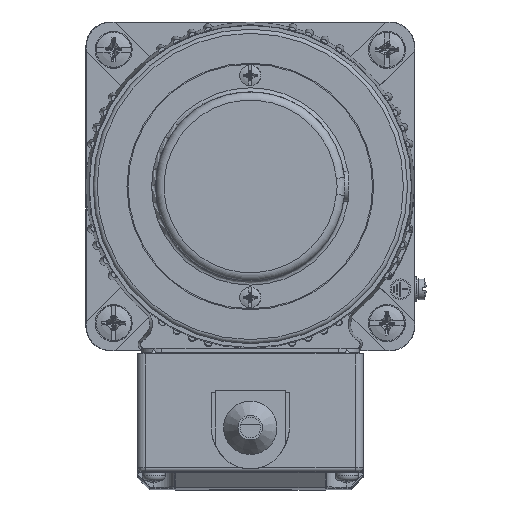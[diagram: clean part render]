
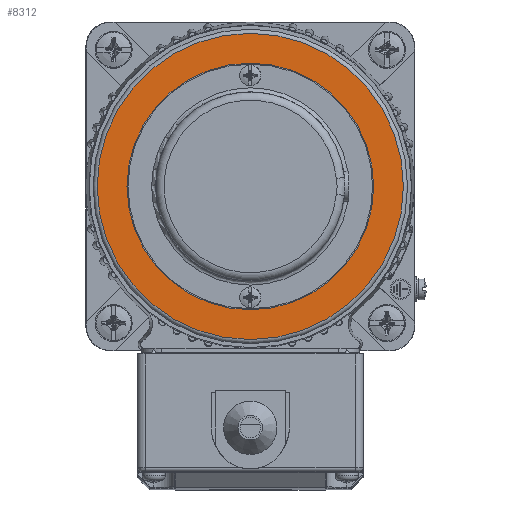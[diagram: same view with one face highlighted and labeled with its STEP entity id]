
A CAD part, left-side view. The second image highlights one B-rep face of the part: STEP entity #8312.
In plain terms, the highlighted planar face has unit normal (-1, 0, 0).
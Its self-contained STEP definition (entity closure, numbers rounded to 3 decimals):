
#2808=PLANE('',#27668);
#8312=ADVANCED_FACE('',(#8981,#8982),#2808,.F.);
#8981=FACE_BOUND('',#10661,.T.);
#8982=FACE_BOUND('',#10662,.T.);
#10661=EDGE_LOOP('',(#17662));
#10662=EDGE_LOOP('',(#17663));
#17662=ORIENTED_EDGE('',*,*,#24083,.F.);
#17663=ORIENTED_EDGE('',*,*,#24065,.T.);
#20452=VERTEX_POINT('',#51013);
#20470=VERTEX_POINT('',#51054);
#24065=EDGE_CURVE('',#20452,#20452,#25454,.T.);
#24083=EDGE_CURVE('',#20470,#20470,#25456,.T.);
#25454=CIRCLE('',#27660,37.25);
#25456=CIRCLE('',#27667,30.);
#27660=AXIS2_PLACEMENT_3D('',#51012,#33422,#33423);
#27667=AXIS2_PLACEMENT_3D('',#51053,#33452,#33453);
#27668=AXIS2_PLACEMENT_3D('',#51055,#33454,#33455);
#33422=DIRECTION('',(-1.,0.,0.));
#33423=DIRECTION('',(0.,0.,-1.));
#33452=DIRECTION('',(-1.,0.,0.));
#33453=DIRECTION('',(0.,0.,1.));
#33454=DIRECTION('',(1.,0.,0.));
#33455=DIRECTION('',(0.,0.,-1.));
#51012=CARTESIAN_POINT('',(-86.,40.,40.));
#51013=CARTESIAN_POINT('',(-86.,40.,2.75));
#51053=CARTESIAN_POINT('',(-86.,40.,40.));
#51054=CARTESIAN_POINT('',(-86.,40.,70.));
#51055=CARTESIAN_POINT('',(-86.,40.,78.25));
